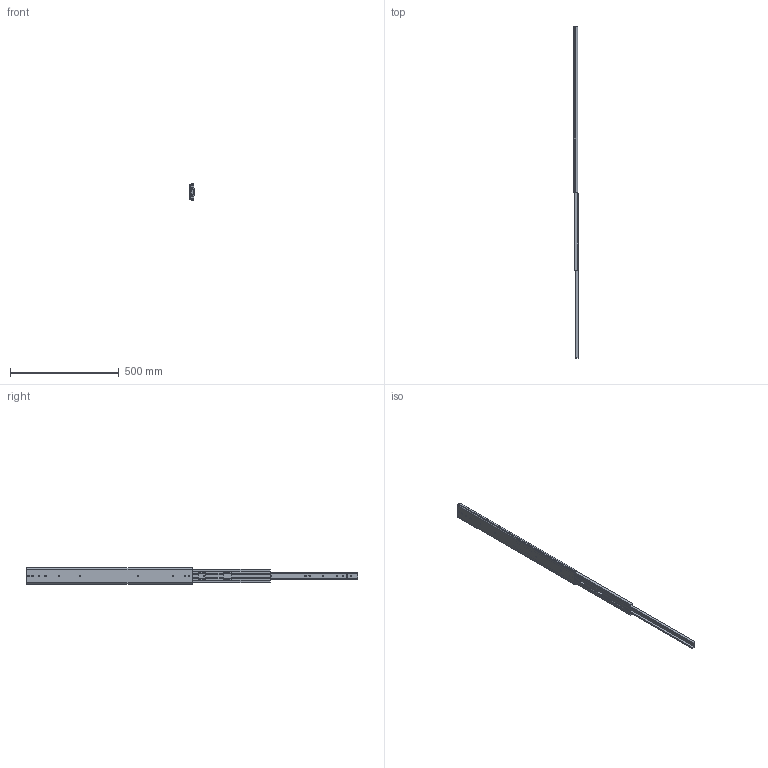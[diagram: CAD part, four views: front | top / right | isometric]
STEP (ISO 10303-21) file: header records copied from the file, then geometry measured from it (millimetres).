
FILE_DESCRIPTION(/* description */ ('Unknown'),/* implementation_level */ '2;1');
FILE_NAME(/* name */ '76J01-30 open',/* time_stamp */ '2024-07-26T15:59:10+08:00',/* author */ ('Unknown'),/* organization */ ('Unknown'),/* preprocessor_version */ 'ST-DEVELOPER v18.104',/* originating_system */ 'Solid Edge',/* authorisation */ 'Unknown');
FILE_SCHEMA (('AUTOMOTIVE_DESIGN {1 0 10303 214 3 1 1}'));
Length unit declared in the file: millimetre
Products named in the file (4): 76J01-30 open; 76J01 30 inch 內_0tional)_Taiwan.950; 76J01 30 吋中_; 76J01 30 嬪
Assembly tree (3 placements, depth 2):
  76J01-30 open
    76J01 30 inch 內_0tional)_Taiwan.950
    76J01 30 吋中_
    76J01 30 嬪
Bounding box: 19.3 x 1523.3 x 76.76 mm (x, y, z)
Volume: 597130.3 mm3; surface area: 372196.3 mm2
Topology: 3 solids, 3 shells, 192 faces, 591 edges, 399 vertices
Faces by surface type: plane 104, cylinder 88
Full cylindrical faces by diameter (mm): 5.2 x13, 7.1 x2
Entity records: 7028 total; most frequent: CARTESIAN_POINT 1144, DIRECTION 1129, ORIENTED_EDGE 1122, EDGE_CURVE 561, VERTEX_POINT 384, LINE 383, VECTOR 383, AXIS2_PLACEMENT_3D 373
